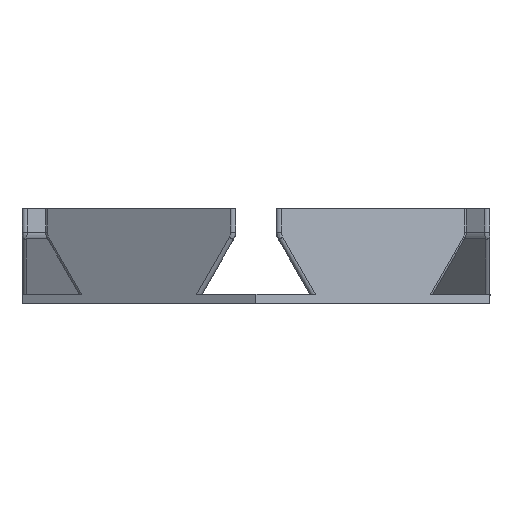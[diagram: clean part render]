
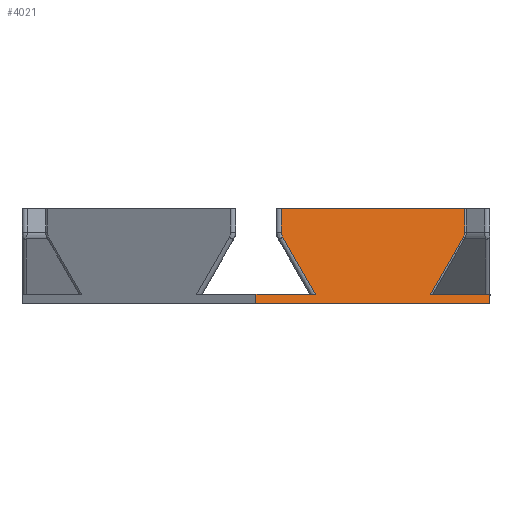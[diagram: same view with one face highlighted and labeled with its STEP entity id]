
A CAD part, left-side view. The second image highlights one B-rep face of the part: STEP entity #4021.
In plain terms, the highlighted planar face has unit normal (-0.866, -0.5, 0).
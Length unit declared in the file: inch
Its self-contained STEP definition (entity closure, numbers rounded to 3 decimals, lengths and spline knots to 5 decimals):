
#103=PLANE('',#4319);
#219=FACE_OUTER_BOUND('',#476,.T.);
#476=EDGE_LOOP('',(#2775,#2776,#2777,#2778,#2779,#2780,#2781,#2782,#2783,
#2784,#2785,#2786));
#721=ELLIPSE('',#4298,0.10825,0.09375);
#725=ELLIPSE('',#4316,0.10825,0.09375);
#795=LINE('',#6351,#1119);
#796=LINE('',#6385,#1120);
#804=LINE('',#6403,#1128);
#809=LINE('',#6426,#1133);
#811=LINE('',#6460,#1135);
#813=LINE('',#6464,#1137);
#814=LINE('',#6466,#1138);
#815=LINE('',#6468,#1139);
#816=LINE('',#6470,#1140);
#817=LINE('',#6471,#1141);
#1119=VECTOR('',#4907,0.21651);
#1120=VECTOR('',#4918,0.63444);
#1128=VECTOR('',#4936,1.95873);
#1133=VECTOR('',#4955,0.63444);
#1135=VECTOR('',#4967,0.21651);
#1137=VECTOR('',#4971,0.63706);
#1138=VECTOR('',#4972,0.08373);
#1139=VECTOR('',#4973,2.5);
#1140=VECTOR('',#4974,0.08373);
#1141=VECTOR('',#4975,0.63706);
#1690=VERTEX_POINT('',#6344);
#1693=VERTEX_POINT('',#6349);
#1695=VERTEX_POINT('',#6377);
#1697=VERTEX_POINT('',#6383);
#1702=VERTEX_POINT('',#6402);
#1712=VERTEX_POINT('',#6423);
#1713=VERTEX_POINT('',#6425);
#1716=VERTEX_POINT('',#6455);
#1717=VERTEX_POINT('',#6463);
#1718=VERTEX_POINT('',#6465);
#1719=VERTEX_POINT('',#6467);
#1720=VERTEX_POINT('',#6469);
#2081=EDGE_CURVE('',#1693,#1690,#795,.T.);
#2083=EDGE_CURVE('',#1695,#1693,#721,.T.);
#2086=EDGE_CURVE('',#1697,#1695,#796,.T.);
#2095=EDGE_CURVE('',#1690,#1702,#804,.T.);
#2106=EDGE_CURVE('',#1712,#1713,#809,.T.);
#2110=EDGE_CURVE('',#1716,#1712,#725,.T.);
#2112=EDGE_CURVE('',#1702,#1716,#811,.T.);
#2114=EDGE_CURVE('',#1697,#1717,#813,.T.);
#2115=EDGE_CURVE('',#1718,#1717,#814,.T.);
#2116=EDGE_CURVE('',#1718,#1719,#815,.T.);
#2117=EDGE_CURVE('',#1719,#1720,#816,.T.);
#2118=EDGE_CURVE('',#1713,#1720,#817,.T.);
#2775=ORIENTED_EDGE('',*,*,#2114,.T.);
#2776=ORIENTED_EDGE('',*,*,#2115,.F.);
#2777=ORIENTED_EDGE('',*,*,#2116,.T.);
#2778=ORIENTED_EDGE('',*,*,#2117,.T.);
#2779=ORIENTED_EDGE('',*,*,#2118,.F.);
#2780=ORIENTED_EDGE('',*,*,#2106,.F.);
#2781=ORIENTED_EDGE('',*,*,#2110,.F.);
#2782=ORIENTED_EDGE('',*,*,#2112,.F.);
#2783=ORIENTED_EDGE('',*,*,#2095,.F.);
#2784=ORIENTED_EDGE('',*,*,#2081,.F.);
#2785=ORIENTED_EDGE('',*,*,#2083,.F.);
#2786=ORIENTED_EDGE('',*,*,#2086,.F.);
#4021=ADVANCED_FACE('',(#219),#103,.T.);
#4298=AXIS2_PLACEMENT_3D('',#6379,#4910,#4911);
#4316=AXIS2_PLACEMENT_3D('',#6457,#4961,#4962);
#4319=AXIS2_PLACEMENT_3D('',#6462,#4969,#4970);
#4907=DIRECTION('',(0.,0.,1.));
#4910=DIRECTION('center_axis',(0.866,0.5,0.));
#4911=DIRECTION('ref_axis',(-0.5,0.866,0.));
#4918=DIRECTION('',(-0.277,0.48,0.832));
#4936=DIRECTION('',(0.5,-0.866,0.));
#4955=DIRECTION('',(-0.277,0.48,-0.832));
#4961=DIRECTION('center_axis',(0.866,0.5,0.));
#4962=DIRECTION('ref_axis',(0.5,-0.866,0.));
#4967=DIRECTION('',(0.,0.,-1.));
#4969=DIRECTION('center_axis',(-0.866,-0.5,0.));
#4970=DIRECTION('ref_axis',(0.5,-0.866,0.));
#4971=DIRECTION('',(-0.5,0.866,0.));
#4972=DIRECTION('',(0.,0.,1.));
#4973=DIRECTION('',(0.5,-0.866,0.));
#4974=DIRECTION('',(0.,0.,1.));
#4975=DIRECTION('',(0.5,-0.866,0.));
#6344=CARTESIAN_POINT('',(-1.11468,1.93069,0.875));
#6349=CARTESIAN_POINT('',(-1.11468,1.93069,0.65849));
#6351=CARTESIAN_POINT('',(-1.11468,1.93069,0.3125));
#6377=CARTESIAN_POINT('',(-1.10743,1.91813,0.61162));
#6379=CARTESIAN_POINT('Origin',(-1.06056,1.83694,0.65849));
#6383=CARTESIAN_POINT('',(-0.93147,1.61335,0.08373));
#6385=CARTESIAN_POINT('',(-0.93843,1.62541,0.10462));
#6402=CARTESIAN_POINT('',(-0.13532,0.23438,0.875));
#6403=CARTESIAN_POINT('',(-1.25,2.16506,0.875));
#6423=CARTESIAN_POINT('',(-0.14257,0.24694,0.61162));
#6425=CARTESIAN_POINT('',(-0.31853,0.55171,0.08373));
#6426=CARTESIAN_POINT('',(-0.60003,1.03928,-0.76076));
#6455=CARTESIAN_POINT('',(-0.13532,0.23438,0.65849));
#6457=CARTESIAN_POINT('Origin',(-0.18944,0.32813,0.65849));
#6460=CARTESIAN_POINT('',(-0.13532,0.23438,0.3125));
#6462=CARTESIAN_POINT('Origin',(-1.25,2.16506,0.));
#6463=CARTESIAN_POINT('',(-1.25,2.16506,0.08373));
#6464=CARTESIAN_POINT('',(-1.202,2.08193,0.08373));
#6465=CARTESIAN_POINT('',(-1.25,2.16506,0.));
#6466=CARTESIAN_POINT('',(-1.25,2.16506,0.));
#6467=CARTESIAN_POINT('',(0.,0.,0.));
#6468=CARTESIAN_POINT('',(-1.25,2.16506,0.));
#6469=CARTESIAN_POINT('',(0.,0.,0.08373));
#6470=CARTESIAN_POINT('',(0.,0.,0.));
#6471=CARTESIAN_POINT('',(-0.9855,1.70693,0.08373));
